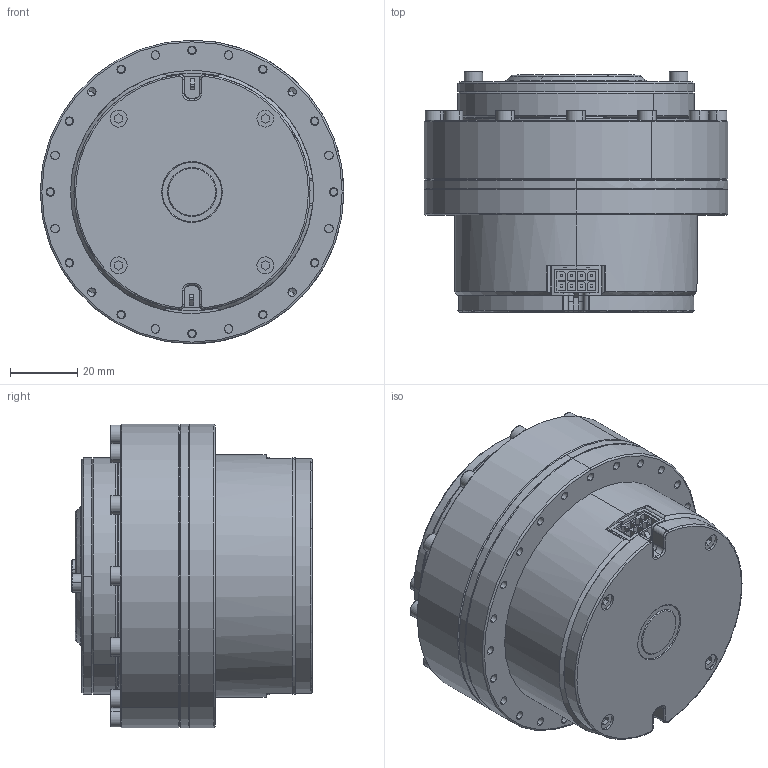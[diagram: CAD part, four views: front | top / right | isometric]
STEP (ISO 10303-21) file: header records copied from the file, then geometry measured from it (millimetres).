
FILE_DESCRIPTION (( 'STEP AP214' ), '1' );
FILE_NAME ('QddPro_6010_31_903D.STEP', '2019-04-23T10:11:57', ( 'Microsoft' ), ( 'Microsoft' ), 'SwSTEP 2.0', 'SolidWorks 2018', '' );
FILE_SCHEMA (( 'AUTOMOTIVE_DESIGN' ));
Length unit declared in the file: millimetre
Products named in the file (1): QddPro_6010_31_903D
Bounding box: 90 x 71.3 x 90 mm (x, y, z)
Volume: 259930.8 mm3; surface area: 138872.6 mm2
Topology: 117 solids, 117 shells, 2860 faces, 6975 edges, 4428 vertices
Faces by surface type: plane 1598, cylinder 743, cone 379, torus 92, bspline 48
Entity records: 127999 total; most frequent: CARTESIAN_POINT 29604, ORIENTED_EDGE 13830, DIRECTION 12753, EDGE_CURVE 6915, VERTEX_POINT 4428, VECTOR 4423, LINE 4423, AXIS2_PLACEMENT_3D 4165
